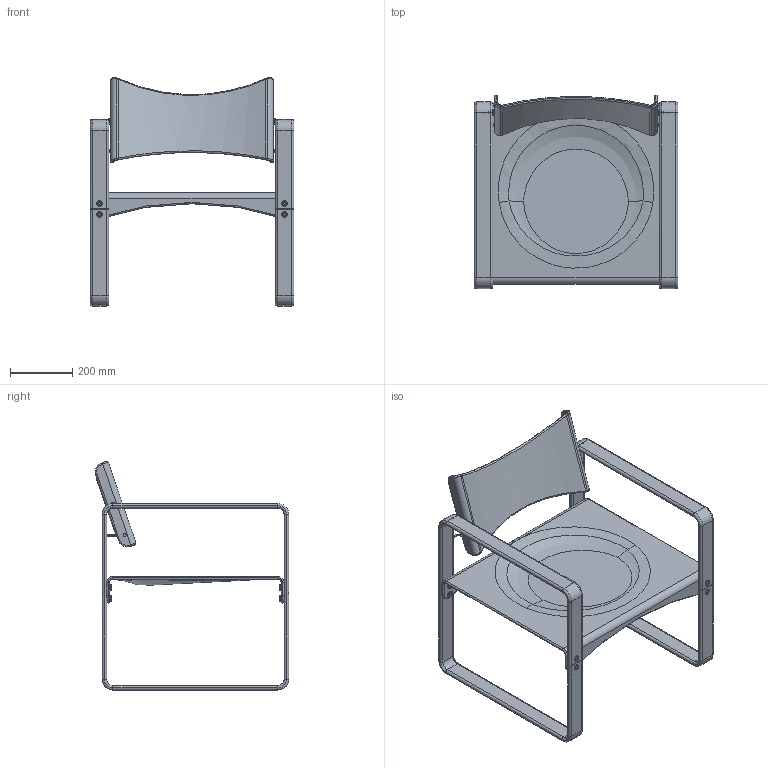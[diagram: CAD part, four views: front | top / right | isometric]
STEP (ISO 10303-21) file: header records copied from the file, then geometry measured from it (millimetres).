
FILE_DESCRIPTION(/* description */ (''),/* implementation_level */ '2;1');
FILE_NAME(/* name */ '270 lounge hex vers.',/* time_stamp */ '2024-09-17T16:30:56+02:00',/* author */ (''),/* organization */ (''),/* preprocessor_version */ 'ST-DEVELOPER v19.2',/* originating_system */ 'Rhino 8.2',/* authorisation */ '');
FILE_SCHEMA (('CONFIG_CONTROL_DESIGN'));
Length unit declared in the file: millimetre
Products named in the file (1): Document
Bounding box: 655 x 621.84 x 735.62 mm (x, y, z)
Volume: 9002862 mm3; surface area: 1881884 mm2
Topology: 46 solids, 46 shells, 1328 faces, 3036 edges, 1928 vertices
Faces by surface type: plane 522, bspline 469, cylinder 337
Entity records: 59392 total; most frequent: CARTESIAN_POINT 33237, ORIENTED_EDGE 6058, DIRECTION 3343, EDGE_CURVE 3029, AXIS2_PLACEMENT_3D 2101, VERTEX_POINT 1912, B_SPLINE_CURVE_WITH_KNOTS 1703, EDGE_LOOP 1519
